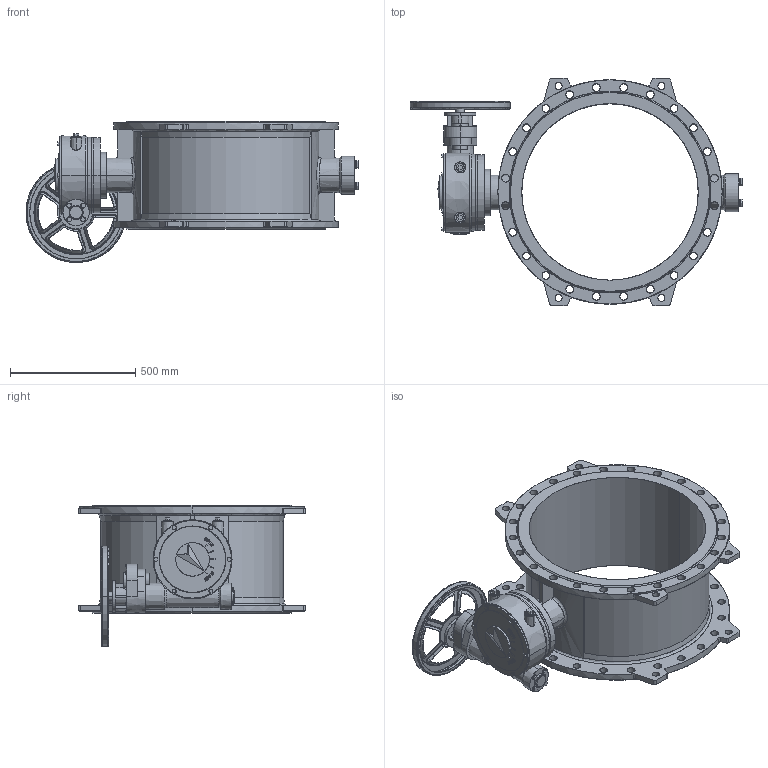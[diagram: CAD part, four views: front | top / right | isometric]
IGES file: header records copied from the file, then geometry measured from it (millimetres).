
Start section: SolidWorks IGES file using analytic representation for surfaces
Global section: file name: F:\2014年工作\泰科菲三维模型资料\PN10\DN700 PN10\DN700 PN10.IGS; native system: SolidWorks 2012; preprocessor: SolidWorks 2012; author: Administrator; date: 140930.101736; units: millimetre
Bounding box: 1324.6 x 905 x 563 mm (x, y, z)
Surface area: 4127396.8 mm2 (no closed solid volume)
Topology: 0 solids, 0 shells, 1074 faces, 21193 edges, 21185 vertices
Faces by surface type: bspline 718, revolution 356
